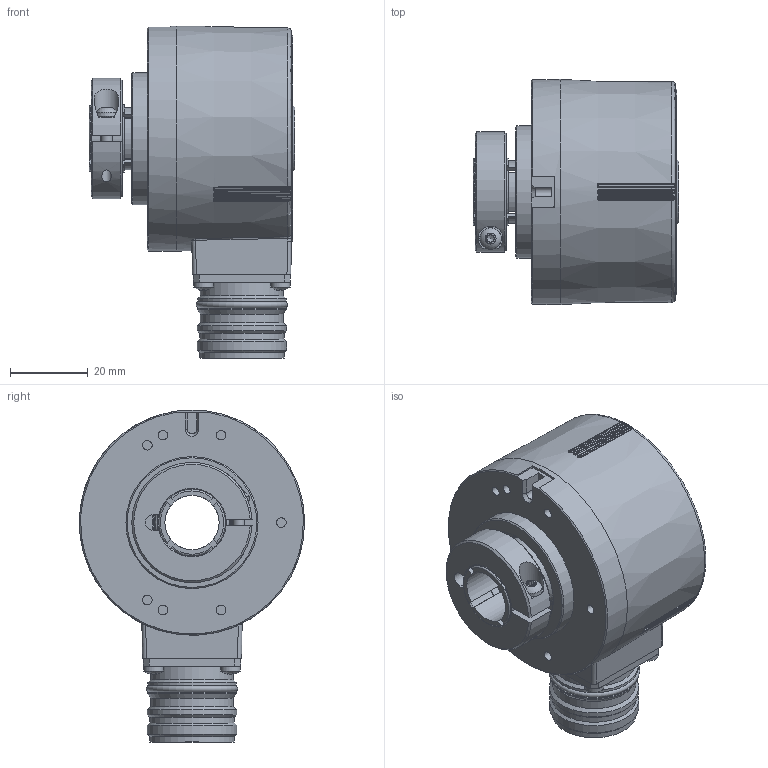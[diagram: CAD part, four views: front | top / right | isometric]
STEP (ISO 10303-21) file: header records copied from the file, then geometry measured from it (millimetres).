
FILE_DESCRIPTION( ( 'Unknown' ), '1' );
FILE_NAME( '//emea.baumernet.org/de05d/RD/caddy/k/GESAMT/EIL580/EIL580/3D/STEP/MarCom/EIL580-TP14.5Fx.xxxxx.A.stp', 'Unknown', ( 'Unknown' ), ( 'Unknown' ), 'PSStep 19.0.9', 'Unknown', ' ' );
FILE_SCHEMA( ( 'AUTOMOTIVE_DESIGN { 1 0 10303 214 1 1 1 1 }' ) );
Length unit declared in the file: millimetre
Products named in the file (3): Assem1; 1_26; 2_6
Assembly tree (2 placements, depth 2):
  Assem1
    1_26
    2_6
Bounding box: 53 x 58 x 85.49 mm (x, y, z)
Volume: 108043.9 mm3; surface area: 24619.9 mm2
Topology: 2 solids, 18 shells, 744 faces, 1787 edges, 1138 vertices
Faces by surface type: plane 253, cylinder 181, extrusion 108, bspline 76, cone 65, torus 40, sphere 19, revolution 2
Full cylindrical faces by diameter (mm): 1 x12, 1.1 x12, 1.5 x1, 2.46 x15, 2.5 x3, 2.7 x4, 2.998 x1, 3.2 x1, 5 x4, 14 x1, 14.1 x1, 16.2 x1, 16.8 x1, 16.95 x1, 17.1 x1, 17.3 x1, 18.262 x1, 18.704 x1, 19 x1, 19.312 x1, 20 x1, 20.5 x1, 21.4 x2, 21.74 x2, 21.927 x1, 22.558 x1, 22.85 x2, 23 x2, 23.904 x1, 26 x1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
Entity records: 50577 total; most frequent: CARTESIAN_POINT 29053, ORIENTED_EDGE 3180, DIRECTION 2768, EDGE_CURVE 1590, VERTEX_POINT 1119, AXIS2_PLACEMENT_3D 1049, EDGE_LOOP 989, FACE_OUTER_BOUND 841
